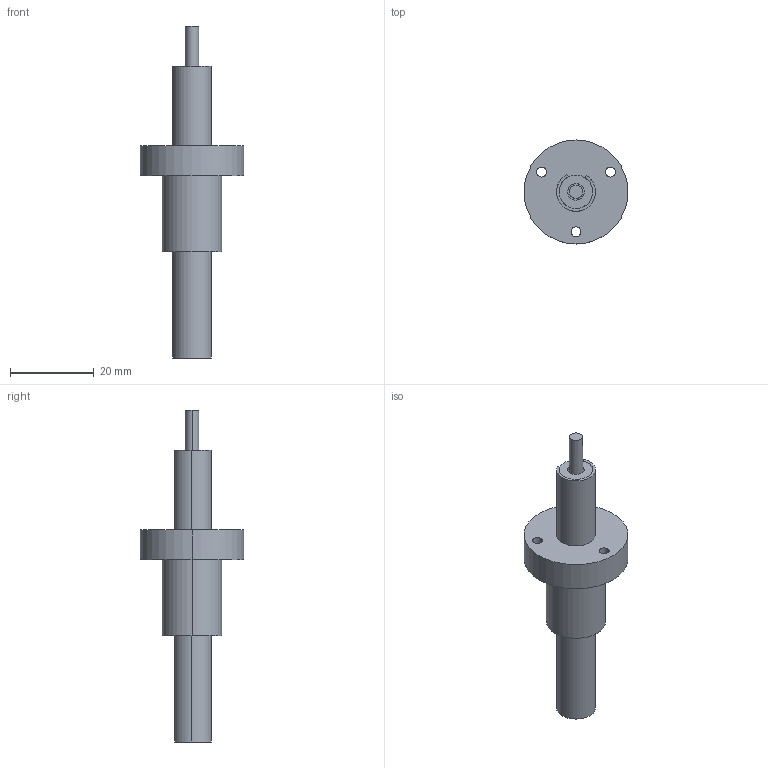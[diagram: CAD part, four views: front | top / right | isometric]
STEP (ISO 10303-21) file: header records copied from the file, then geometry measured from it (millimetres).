
FILE_DESCRIPTION (( 'STEP AP214' ), '1' );
FILE_NAME ('AMETEK-SRA03KR-A00-0050-01.00-000.STEP', '2022-03-08T08:05:22', ( '' ), ( '' ), 'SwSTEP 2.0', 'SolidWorks 2021', '' );
FILE_SCHEMA (( 'AUTOMOTIVE_DESIGN' ));
Length unit declared in the file: inch
Products named in the file (6): AMETEK-SRA03KR-A00-0050-01.00-000; SRA3000; 3000 srail component build up 2; 3000 srail component build up 1; SR3000 Rail; SR3000 Leadscrew
Assembly tree (5 placements, depth 2):
  AMETEK-SRA03KR-A00-0050-01.00-000
    SR3000 Rail
    3000 srail component build up 1
    3000 srail component build up 2
    SRA3000
    SR3000 Leadscrew
Bounding box: 24.89 x 24.89 x 79.5 mm (x, y, z)
Volume: 8626.1 mm3; surface area: 9131.8 mm2
Topology: 5 solids, 5 shells, 66 faces, 156 edges, 104 vertices
Faces by surface type: cylinder 46, plane 20
Entity records: 3112 total; most frequent: DIRECTION 396, CARTESIAN_POINT 334, ORIENTED_EDGE 312, AXIS2_PLACEMENT_3D 166, EDGE_CURVE 156, VERTEX_POINT 104, CIRCLE 92, EDGE_LOOP 84
